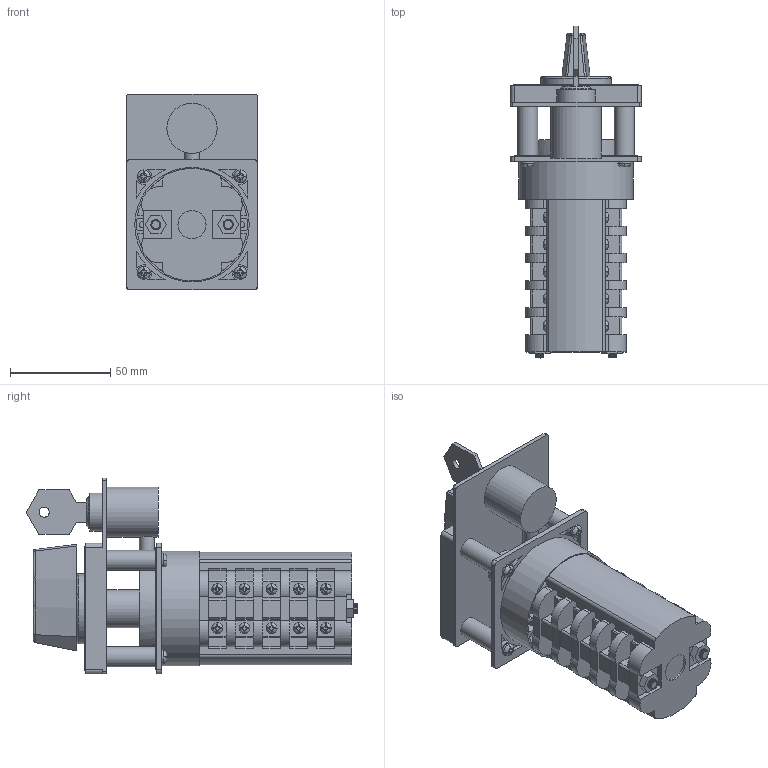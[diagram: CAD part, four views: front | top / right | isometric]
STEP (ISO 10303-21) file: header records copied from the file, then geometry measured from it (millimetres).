
FILE_DESCRIPTION(/* description */ (''),/* implementation_level */ '2;1');
FILE_NAME(/* name */ '4G16,25_S5_5_korpusow.stp',/* time_stamp */ '2021-07-21T12:01:33+02:00',/* author */ (''),/* organization */ (''),/* preprocessor_version */ 'ST-DEVELOPER v18.1',/* originating_system */ 'SIEMENS PLM Software NX 1965',/* authorisation */ '');
FILE_SCHEMA (('AUTOMOTIVE_DESIGN { 1 0 10303 214 3 1 1 1 }'));
Products named in the file (1): 4G16,25_S5_5_korpusow_stp
Bounding box: 65 x 165.1 x 97.5 mm (x, y, z)
Volume: 305949.6 mm3; surface area: 74261.4 mm2
Topology: 2 solids, 13 shells, 1384 faces, 3845 edges, 2535 vertices
Faces by surface type: plane 809, cylinder 385, bspline 143, cone 44, sphere 2, torus 1
Full cylindrical faces by diameter (mm): 3.3 x2, 4 x4, 4.3 x4, 5 x3, 5.4 x21, 6.4 x4, 6.5 x2, 7.2 x4, 7.5 x1, 10 x5, 14 x1, 15.8 x1, 19 x2, 21.2 x1, 25 x1, 35 x1, 57 x1
Entity records: 127738 total; most frequent: CARTESIAN_POINT 93954, ORIENTED_EDGE 7362, DIRECTION 6294, EDGE_CURVE 3681, VERTEX_POINT 2463, AXIS2_PLACEMENT_3D 2263, LINE 1768, VECTOR 1768
